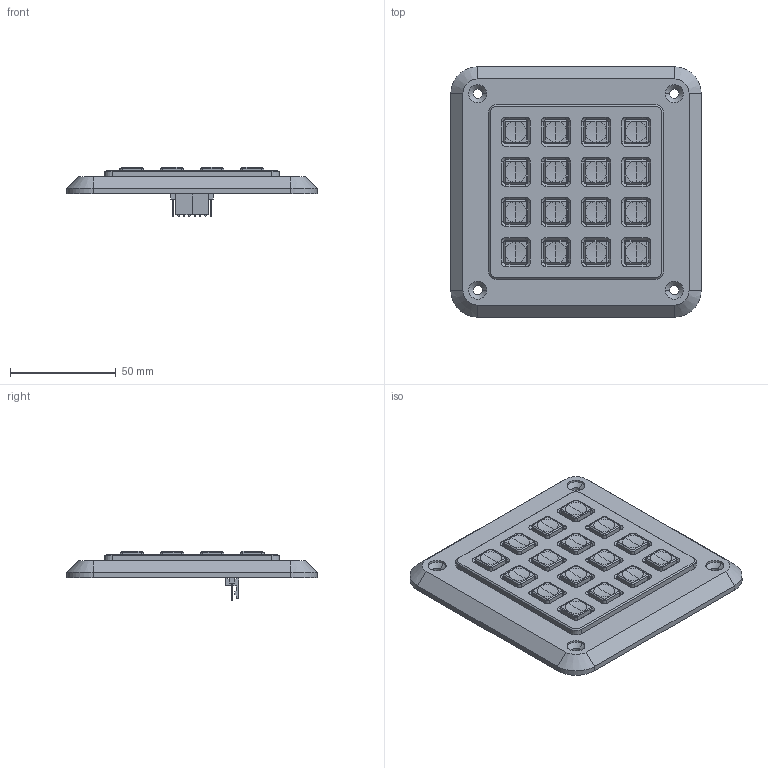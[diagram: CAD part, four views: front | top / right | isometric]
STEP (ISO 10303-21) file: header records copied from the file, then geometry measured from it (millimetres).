
FILE_DESCRIPTION (( 'STEP AP214' ), '1' );
FILE_NAME ('K Range 16 way.STEP', '2015-10-27T14:17:45', ( '' ), ( '' ), 'SwSTEP 2.0', 'SolidWorks 2013', '' );
FILE_SCHEMA (( 'AUTOMOTIVE_DESIGN' ));
Length unit declared in the file: millimetre
Products named in the file (6): K Range 16 way; 100-16-02_SPACE_MODEL~1; 100-DC-ZN-BLANK~1; 100-16-03~5; 070-00-06_LATCH~1; 000-PIN-40_8_PINS~1
Assembly tree (21 placements, depth 2):
  K Range 16 way
    100-16-02_SPACE_MODEL~1
    100-DC-ZN-BLANK~1  x16
    100-16-03~5
    070-00-06_LATCH~1  x2
    000-PIN-40_8_PINS~1
Bounding box: 118.5 x 118.5 x 23.35 mm (x, y, z)
Volume: 129667.7 mm3; surface area: 70126.7 mm2
Topology: 21 solids, 21 shells, 2068 faces, 5153 edges, 3254 vertices
Faces by surface type: plane 1083, cylinder 561, bspline 192, cone 136, torus 64, sphere 32
Entity records: 22243 total; most frequent: CARTESIAN_POINT 4124, DIRECTION 3743, ORIENTED_EDGE 3622, EDGE_CURVE 1811, LINE 1271, VECTOR 1271, AXIS2_PLACEMENT_3D 1236, VERTEX_POINT 1121
